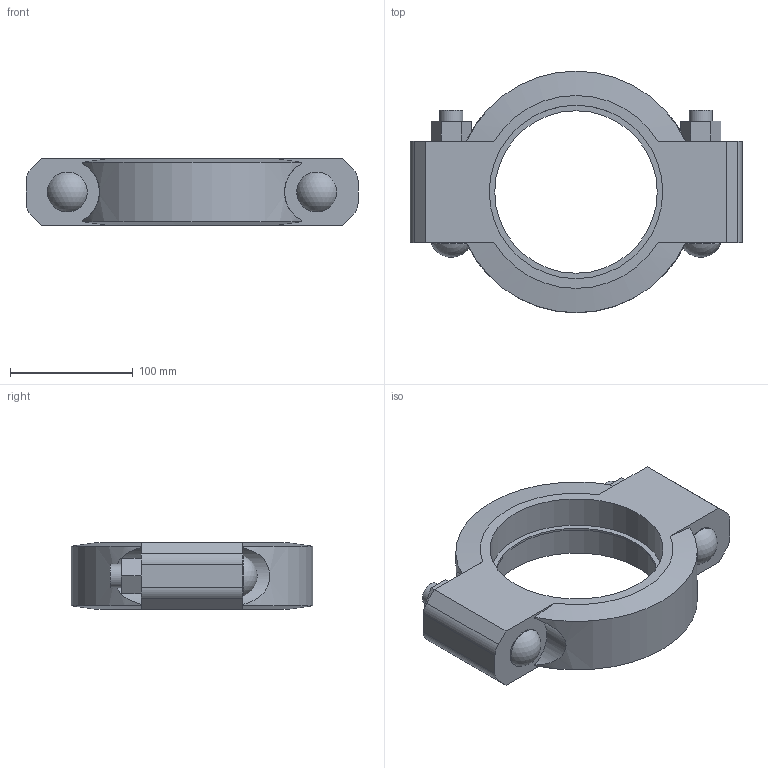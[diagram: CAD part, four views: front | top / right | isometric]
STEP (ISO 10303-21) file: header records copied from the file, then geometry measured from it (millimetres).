
FILE_DESCRIPTION(/* description */ ('Victaulic Standard Flexible Coupling Style 77','CAx-IF Rec.Pracs.---Representation and Presentation of Product Manufacturing Information (PMI)---4.0---2014-10-13'),/* implementation_level */ '2;1');
FILE_NAME(/* name */ 'C:\Users\Vjadhav\Desktop\CAD for Inventor\1\Coupling bolt thickness\77\Victaulic_IPS_Coupling Flexible_Style 77 (OGS)\Victaulic_IPS_Coupling Flexible_Style 77 (OGS)_5 (125).stp',/* time_stamp */ '2022-03-24T18:20:16+06:00',/* author */ ('CONSTRUCTION PIPING SERVICES'),/* organization */ ('Victaulic'),/* preprocessor_version */ 'ST-DEVELOPER v17.2',/* originating_system */ 'Autodesk Inventor 2019',/* authorisation */ '');
FILE_SCHEMA (('AP242_MANAGED_MODEL_BASED_3D_ENGINEERING_MIM_LF { 1 0 10303 442 1 1 4 }'));
Length unit declared in the file: inch
Products named in the file (1): 077-05.0
Bounding box: 270.51 x 196.85 x 54.1 mm (x, y, z)
Volume: 1127681.2 mm3; surface area: 115083.1 mm2
Topology: 1 solids, 1 shells, 53 faces, 130 edges, 87 vertices
Faces by surface type: plane 30, cylinder 17, cone 4, sphere 2
Full cylindrical faces by diameter (mm): 19.05 x2, 32.537 x2, 132.41 x1, 141.3 x2
Entity records: 1874 total; most frequent: CARTESIAN_POINT 420, DIRECTION 287, ORIENTED_EDGE 260, EDGE_CURVE 130, AXIS2_PLACEMENT_3D 102, VERTEX_POINT 87, LINE 83, VECTOR 83
